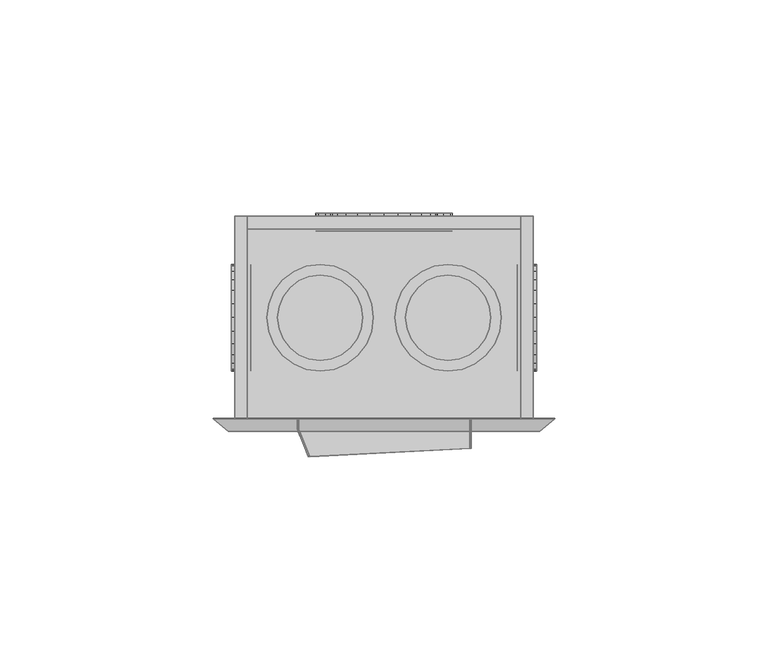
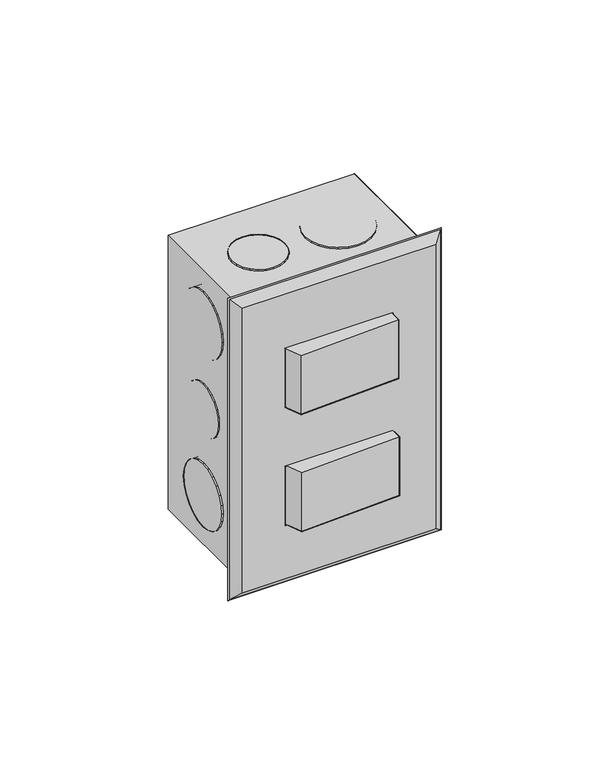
"""IFC4 building model written with IfcOpenShell, lengths in millimetres: proxy geometry,  210377 :  210377."""

from ifc_helpers import new_model, si_unit, origin, place, context, project, spatial, triangles, source, transform, mapped, element, save


def generic_models_202c9ed4(model_context):
    return source(origin(), model_context, "Body", "Tessellation", [
        triangles([(25255.7002808, 13148.2997681, 1254.3000378), (25252.7004639, 13148.2997681, 1148.7000154), (25255.7002808, 13148.2997681, 1145.6999805), (25252.7004639, 13148.2997681, 1251.2999302), (25185.6999023, 13148.2997681, 1254.3000378), (25188.6997192, 13148.2997681, 1251.2999302), (25185.6999023, 13148.2997681, 1145.6999805), (25188.6997192, 13148.2997681, 1148.7000154), (25252.7004639, 13195.8003571, 1251.2999302), (25252.7004639, 13195.8003571, 1148.7000154), (25185.6999023, 13195.8003571, 1254.3000378), (25185.6999023, 13195.8003571, 1145.6999805), (25188.6997192, 13195.8003571, 1251.2999302), (25255.7002808, 13195.8003571, 1145.6999805), (25188.6997192, 13195.8003571, 1148.7000154), (25255.7002808, 13195.8003571, 1254.3000378), (25252.7004639, 13192.8005402, 1251.2999302), (25188.6997192, 13192.8005402, 1148.7000154), (25252.7004639, 13192.8005402, 1148.7000154), (25188.6997192, 13192.8005402, 1251.2999302), (25228.6996033, 13196.5003143, 1186.0999855), (25234.5992432, 13196.5003143, 1191.9999887), (25231.9994019, 13196.5003143, 1188.6999722), (25224.8998352, 13196.5003143, 1184.5000105), (25236.1991455, 13196.5003143, 1195.8999687), (25220.7000916, 13196.5003143, 1183.9999683), (25236.699115, 13196.5003143, 1200.0000092), (25216.6003418, 13196.5003143, 1184.5000105), (25236.1991455, 13196.5003143, 1204.0999769), (25212.7005798, 13196.5003143, 1186.0999855), (25234.5992432, 13196.5003143, 1208.0000296), (25209.4007813, 13196.5003143, 1188.6999722), (25231.9994019, 13196.5003143, 1211.2999735), (25206.9009338, 13196.5003143, 1191.9999887), (25228.6996033, 13196.5003143, 1213.9000328), (25205.3010315, 13196.5003143, 1195.8999687), (25224.8998352, 13196.5003143, 1215.5000078), (25204.7010681, 13196.5003143, 1200.0000092), (25220.7000916, 13196.5003143, 1215.9999773), (25205.3010315, 13196.5003143, 1204.0999769), (25216.6003418, 13196.5003143, 1215.5000078), (25206.9009338, 13196.5003143, 1208.0000296), (25212.7005798, 13196.5003143, 1213.9000328), (25209.4007813, 13196.5003143, 1211.2999735), (25224.8998352, 13192.3005707, 1215.5000078), (25220.7000916, 13192.3005707, 1215.9999773), (25228.6996033, 13192.3005707, 1213.9000328), (25231.9994019, 13192.3005707, 1211.2999735), (25234.5992432, 13192.3005707, 1208.0000296), (25236.1991455, 13192.3005707, 1204.0999769), (25236.699115, 13192.3005707, 1200.0000092), (25236.1991455, 13192.3005707, 1195.8999687), (25234.5992432, 13192.3005707, 1191.9999887), (25231.9994019, 13192.3005707, 1188.6999722), (25228.6996033, 13192.3005707, 1186.0999855), (25224.8998352, 13192.3005707, 1184.5000105), (25220.7000916, 13192.3005707, 1183.9999683), (25216.6003418, 13192.3005707, 1184.5000105), (25212.7005798, 13192.3005707, 1186.0999855), (25209.4007813, 13192.3005707, 1188.6999722), (25206.9009338, 13192.3005707, 1191.9999887), (25205.3010315, 13192.3005707, 1195.8999687), (25204.7010681, 13192.3005707, 1200.0000092), (25205.3010315, 13192.3005707, 1204.0999769), (25206.9009338, 13192.3005707, 1208.0000296), (25209.4007813, 13192.3005707, 1211.2999735), (25212.7005798, 13192.3005707, 1213.9000328), (25216.6003418, 13192.3005707, 1215.5000078), (25231.5994263, 13192.3005707, 1227.8000565), (25226.999707, 13192.3005707, 1223.2000465), (25229.5995483, 13192.3005707, 1225.2000698), (25232.799353, 13192.3005707, 1230.8000187), (25223.9998901, 13192.3005707, 1221.8999805), (25233.1993286, 13192.3005707, 1233.9999687), (25220.7000916, 13192.3005707, 1221.500005), (25232.799353, 13192.3005707, 1237.2000641), (25217.5002869, 13192.3005707, 1221.8999805), (25231.5994263, 13192.3005707, 1240.3000202), (25214.50047, 13192.3005707, 1223.2000465), (25229.5995483, 13192.3005707, 1242.800013), (25211.9006287, 13192.3005707, 1225.2000698), (25209.9007507, 13192.3005707, 1227.8000565), (25226.999707, 13192.3005707, 1244.8000362), (25223.9998901, 13192.3005707, 1246.0999569), (25208.700824, 13192.3005707, 1230.8000187), (25220.7000916, 13192.3005707, 1246.4999325), (25208.2008545, 13192.3005707, 1233.9999687), (25217.5002869, 13192.3005707, 1246.0999569), (25208.700824, 13192.3005707, 1237.2000641), (25209.9007507, 13192.3005707, 1240.3000202), (25214.50047, 13192.3005707, 1244.8000362), (25211.9006287, 13192.3005707, 1242.800013), (25208.700824, 13196.5003143, 1230.8000187), (25209.9007507, 13196.5003143, 1227.8000565), (25211.9006287, 13196.5003143, 1225.2000698), (25214.50047, 13196.5003143, 1223.2000465), (25217.5002869, 13196.5003143, 1221.8999805), (25220.7000916, 13196.5003143, 1221.500005), (25223.9998901, 13196.5003143, 1221.8999805), (25226.999707, 13196.5003143, 1223.2000465), (25229.5995483, 13196.5003143, 1225.2000698), (25231.5994263, 13196.5003143, 1227.8000565), (25232.799353, 13196.5003143, 1230.8000187), (25233.1993286, 13196.5003143, 1233.9999687), (25232.799353, 13196.5003143, 1237.2000641), (25231.5994263, 13196.5003143, 1240.3000202), (25229.5995483, 13196.5003143, 1242.800013), (25226.999707, 13196.5003143, 1244.8000362), (25223.9998901, 13196.5003143, 1246.0999569), (25220.7000916, 13196.5003143, 1246.4999325), (25217.5002869, 13196.5003143, 1246.0999569), (25214.50047, 13196.5003143, 1244.8000362), (25211.9006287, 13196.5003143, 1242.800013), (25209.9007507, 13196.5003143, 1240.3000202), (25208.700824, 13196.5003143, 1237.2000641), (25208.2008545, 13196.5003143, 1233.9999687), (25226.999707, 13196.5003143, 1155.1999821), (25231.5994263, 13196.5003143, 1159.6999981), (25229.5995483, 13196.5003143, 1157.2000053), (25223.9998901, 13196.5003143, 1153.8999887), (25232.799353, 13196.5003143, 1162.8000269), (25220.7000916, 13196.5003143, 1153.5000132), (25233.1993286, 13196.5003143, 1165.9999769), (25217.5002869, 13196.5003143, 1153.8999887), (25232.799353, 13196.5003143, 1169.1999996), (25214.50047, 13196.5003143, 1155.1999821), (25231.5994263, 13196.5003143, 1172.2000345), (25211.9006287, 13196.5003143, 1157.2000053), (25229.5995483, 13196.5003143, 1174.8000212), (25209.9007507, 13196.5003143, 1159.6999981), (25226.999707, 13196.5003143, 1176.7999718), (25208.700824, 13196.5003143, 1162.8000269), (25223.9998901, 13196.5003143, 1178.0999651), (25220.7000916, 13196.5003143, 1178.5000134), (25208.2008545, 13196.5003143, 1165.9999769), (25208.700824, 13196.5003143, 1169.1999996), (25217.5002869, 13196.5003143, 1178.0999651), (25209.9007507, 13196.5003143, 1172.2000345), (25214.50047, 13196.5003143, 1176.7999718), (25211.9006287, 13196.5003143, 1174.8000212), (25223.9998901, 13192.3005707, 1178.0999651), (25220.7000916, 13192.3005707, 1178.5000134), (25226.999707, 13192.3005707, 1176.7999718), (25229.5995483, 13192.3005707, 1174.8000212), (25231.5994263, 13192.3005707, 1172.2000345), (25232.799353, 13192.3005707, 1169.1999996), (25233.1993286, 13192.3005707, 1165.9999769), (25232.799353, 13192.3005707, 1162.8000269), (25231.5994263, 13192.3005707, 1159.6999981), (25229.5995483, 13192.3005707, 1157.2000053), (25226.999707, 13192.3005707, 1155.1999821), (25223.9998901, 13192.3005707, 1153.8999887), (25220.7000916, 13192.3005707, 1153.5000132), (25217.5002869, 13192.3005707, 1153.8999887), (25214.50047, 13192.3005707, 1155.1999821), (25211.9006287, 13192.3005707, 1157.2000053), (25209.9007507, 13192.3005707, 1159.6999981), (25208.700824, 13192.3005707, 1162.8000269), (25208.2008545, 13192.3005707, 1165.9999769), (25208.700824, 13192.3005707, 1169.1999996), (25209.9007507, 13192.3005707, 1172.2000345), (25211.9006287, 13192.3005707, 1174.8000212), (25214.50047, 13192.3005707, 1176.7999718), (25217.5002869, 13192.3005707, 1178.0999651), (25256.5002319, 13180.700116, 1195.0000237), (25256.5002319, 13177.0003418, 1191.3000315), (25256.5002319, 13179.1002136, 1192.9000065), (25256.5002319, 13181.7000549, 1197.4000225), (25256.5002319, 13174.6004883, 1190.3000198), (25256.5002319, 13182.0000366, 1200.0000092), (25256.5002319, 13171.9994843, 1189.9999655), (25256.5002319, 13181.7000549, 1202.5999958), (25256.5002319, 13169.3996429, 1190.3000198), (25256.5002319, 13180.700116, 1204.9999947), (25256.5002319, 13166.9997894, 1191.3000315), (25256.5002319, 13179.1002136, 1207.1000118), (25256.5002319, 13164.8999176, 1192.9000065), (25256.5002319, 13177.0003418, 1208.6999868), (25256.5002319, 13163.3000153, 1195.0000237), (25256.5002319, 13174.6004883, 1209.6999985), (25256.5002319, 13162.3000763, 1197.4000225), (25256.5002319, 13162.0000946, 1200.0000092), (25256.5002319, 13171.9994843, 1209.9999802), (25256.5002319, 13169.3996429, 1209.6999985), (25256.5002319, 13162.3000763, 1202.5999958), (25256.5002319, 13166.9997894, 1208.6999868), (25256.5002319, 13163.3000153, 1204.9999947), (25256.5002319, 13164.8999176, 1207.1000118), (25251.9005127, 13174.6004883, 1209.6999985), (25251.9005127, 13171.9994843, 1209.9999802), (25251.9005127, 13169.3996429, 1209.6999985), (25251.9005127, 13166.9997894, 1208.6999868), (25251.9005127, 13164.8999176, 1207.1000118), (25251.9005127, 13163.3000153, 1204.9999947), (25251.9005127, 13162.3000763, 1202.5999958), (25251.9005127, 13162.0000946, 1200.0000092), (25251.9005127, 13162.3000763, 1197.4000225), (25251.9005127, 13163.3000153, 1195.0000237), (25251.9005127, 13164.8999176, 1192.9000065), (25251.9005127, 13166.9997894, 1191.3000315), (25251.9005127, 13169.3996429, 1190.3000198), (25251.9005127, 13171.9994843, 1189.9999655), (25251.9005127, 13174.6004883, 1190.3000198), (25251.9005127, 13177.0003418, 1191.3000315), (25251.9005127, 13179.1002136, 1192.9000065), (25251.9005127, 13180.700116, 1195.0000237), (25251.9005127, 13181.7000549, 1197.4000225), (25251.9005127, 13182.0000366, 1200.0000092), (25251.9005127, 13181.7000549, 1202.5999958), (25251.9005127, 13180.700116, 1204.9999947), (25251.9005127, 13179.1002136, 1207.1000118), (25251.9005127, 13177.0003418, 1208.6999868), (25251.9005127, 13178.3002625, 1223.2000465), (25251.9005127, 13182.7999878, 1227.8000565), (25251.9005127, 13180.8001099, 1225.2000698), (25251.9005127, 13175.2004517, 1221.8999805), (25251.9005127, 13184.0999084, 1230.8000187), (25251.9005127, 13184.499884, 1233.9999687), (25251.9005127, 13171.9994843, 1221.500005), (25251.9005127, 13168.7996796, 1221.8999805), (25251.9005127, 13184.0999084, 1237.2000641), (25251.9005127, 13182.7999878, 1240.3000202), (25251.9005127, 13165.7998627, 1223.2000465), (25251.9005127, 13163.2000214, 1225.2000698), (25251.9005127, 13180.8001099, 1242.800013), (25251.9005127, 13161.2001434, 1227.8000565), (25251.9005127, 13178.3002625, 1244.8000362), (25251.9005127, 13159.9002228, 1230.8000187), (25251.9005127, 13175.2004517, 1246.0999569), (25251.9005127, 13159.5002472, 1233.9999687), (25251.9005127, 13171.9994843, 1246.4999325), (25251.9005127, 13159.9002228, 1237.2000641), (25251.9005127, 13168.7996796, 1246.0999569), (25251.9005127, 13161.2001434, 1240.3000202), (25251.9005127, 13165.7998627, 1244.8000362), (25251.9005127, 13163.2000214, 1242.800013), (25256.5002319, 13171.9994843, 1221.500005), (25256.5002319, 13175.2004517, 1221.8999805), (25256.5002319, 13168.7996796, 1221.8999805), (25256.5002319, 13165.7998627, 1223.2000465), (25256.5002319, 13163.2000214, 1225.2000698), (25256.5002319, 13161.2001434, 1227.8000565), (25256.5002319, 13159.9002228, 1230.8000187), (25256.5002319, 13159.5002472, 1233.9999687), (25256.5002319, 13159.9002228, 1237.2000641), (25256.5002319, 13161.2001434, 1240.3000202), (25256.5002319, 13163.2000214, 1242.800013), (25256.5002319, 13165.7998627, 1244.8000362), (25256.5002319, 13168.7996796, 1246.0999569), (25256.5002319, 13171.9994843, 1246.4999325), (25256.5002319, 13175.2004517, 1246.0999569), (25256.5002319, 13178.3002625, 1244.8000362), (25256.5002319, 13180.8001099, 1242.800013), (25256.5002319, 13182.7999878, 1240.3000202), (25256.5002319, 13184.0999084, 1237.2000641), (25256.5002319, 13184.499884, 1233.9999687), (25256.5002319, 13184.0999084, 1230.8000187), (25256.5002319, 13182.7999878, 1227.8000565), (25256.5002319, 13180.8001099, 1225.2000698), (25256.5002319, 13178.3002625, 1223.2000465), (25256.5002319, 13182.7999878, 1159.6999981), (25256.5002319, 13178.3002625, 1155.1999821), (25256.5002319, 13180.8001099, 1157.2000053), (25256.5002319, 13184.0999084, 1162.8000269), (25256.5002319, 13175.2004517, 1153.8999887), (25256.5002319, 13184.499884, 1165.9999769), (25256.5002319, 13171.9994843, 1153.5000132), (25256.5002319, 13184.0999084, 1169.1999996), (25256.5002319, 13168.7996796, 1153.8999887), (25256.5002319, 13182.7999878, 1172.2000345), (25256.5002319, 13165.7998627, 1155.1999821), (25256.5002319, 13180.8001099, 1174.8000212), (25256.5002319, 13163.2000214, 1157.2000053), (25256.5002319, 13178.3002625, 1176.7999718), (25256.5002319, 13161.2001434, 1159.6999981), (25256.5002319, 13175.2004517, 1178.0999651), (25256.5002319, 13159.9002228, 1162.8000269), (25256.5002319, 13171.9994843, 1178.5000134), (25256.5002319, 13159.5002472, 1165.9999769), (25256.5002319, 13168.7996796, 1178.0999651), (25256.5002319, 13159.9002228, 1169.1999996), (25256.5002319, 13165.7998627, 1176.7999718), (25256.5002319, 13161.2001434, 1172.2000345), (25256.5002319, 13163.2000214, 1174.8000212), (25251.9005127, 13175.2004517, 1178.0999651), (25251.9005127, 13171.9994843, 1178.5000134), (25251.9005127, 13168.7996796, 1178.0999651), (25251.9005127, 13165.7998627, 1176.7999718), (25251.9005127, 13163.2000214, 1174.8000212), (25251.9005127, 13161.2001434, 1172.2000345), (25251.9005127, 13159.9002228, 1169.1999996), (25251.9005127, 13159.5002472, 1165.9999769), (25251.9005127, 13159.9002228, 1162.8000269), (25251.9005127, 13161.2001434, 1159.6999981), (25251.9005127, 13163.2000214, 1157.2000053), (25251.9005127, 13165.7998627, 1155.1999821), (25251.9005127, 13168.7996796, 1153.8999887), (25251.9005127, 13171.9994843, 1153.5000132), (25251.9005127, 13175.2004517, 1153.8999887), (25251.9005127, 13178.3002625, 1155.1999821), (25251.9005127, 13180.8001099, 1157.2000053), (25251.9005127, 13182.7999878, 1159.6999981), (25251.9005127, 13184.0999084, 1162.8000269), (25251.9005127, 13184.499884, 1165.9999769), (25251.9005127, 13184.0999084, 1169.1999996), (25251.9005127, 13182.7999878, 1172.2000345), (25251.9005127, 13180.8001099, 1174.8000212), (25251.9005127, 13178.3002625, 1176.7999718), (25184.8999512, 13177.0003418, 1191.3000315), (25184.8999512, 13180.700116, 1195.0000237), (25184.8999512, 13179.1002136, 1192.9000065), (25184.8999512, 13181.7000549, 1197.4000225), (25184.8999512, 13174.6004883, 1190.3000198), (25184.8999512, 13182.0000366, 1200.0000092), (25184.8999512, 13171.9994843, 1189.9999655), (25184.8999512, 13169.3996429, 1190.3000198), (25184.8999512, 13181.7000549, 1202.5999958), (25184.8999512, 13180.700116, 1204.9999947), (25184.8999512, 13166.9997894, 1191.3000315), (25184.8999512, 13179.1002136, 1207.1000118), (25184.8999512, 13164.8999176, 1192.9000065), (25184.8999512, 13163.3000153, 1195.0000237), (25184.8999512, 13177.0003418, 1208.6999868), (25184.8999512, 13162.3000763, 1197.4000225), (25184.8999512, 13174.6004883, 1209.6999985), (25184.8999512, 13162.0000946, 1200.0000092), (25184.8999512, 13171.9994843, 1209.9999802), (25184.8999512, 13162.3000763, 1202.5999958), (25184.8999512, 13169.3996429, 1209.6999985), (25184.8999512, 13166.9997894, 1208.6999868), (25184.8999512, 13163.3000153, 1204.9999947), (25184.8999512, 13164.8999176, 1207.1000118), (25189.4996704, 13174.6004883, 1190.3000198), (25189.4996704, 13177.0003418, 1191.3000315), (25189.4996704, 13171.9994843, 1189.9999655), (25189.4996704, 13169.3996429, 1190.3000198), (25189.4996704, 13166.9997894, 1191.3000315), (25189.4996704, 13164.8999176, 1192.9000065), (25189.4996704, 13163.3000153, 1195.0000237), (25189.4996704, 13162.3000763, 1197.4000225), (25189.4996704, 13162.0000946, 1200.0000092), (25189.4996704, 13162.3000763, 1202.5999958), (25189.4996704, 13163.3000153, 1204.9999947), (25189.4996704, 13164.8999176, 1207.1000118), (25189.4996704, 13166.9997894, 1208.6999868), (25189.4996704, 13169.3996429, 1209.6999985), (25189.4996704, 13171.9994843, 1209.9999802), (25189.4996704, 13174.6004883, 1209.6999985), (25189.4996704, 13177.0003418, 1208.6999868), (25189.4996704, 13179.1002136, 1207.1000118), (25189.4996704, 13180.700116, 1204.9999947), (25189.4996704, 13181.7000549, 1202.5999958), (25189.4996704, 13182.0000366, 1200.0000092), (25189.4996704, 13181.7000549, 1197.4000225), (25189.4996704, 13180.700116, 1195.0000237), (25189.4996704, 13179.1002136, 1192.9000065), (25189.4996704, 13182.7999878, 1159.6999981), (25189.4996704, 13178.3002625, 1155.1999821), (25189.4996704, 13180.8001099, 1157.2000053), (25189.4996704, 13184.0999084, 1162.8000269), (25189.4996704, 13175.2004517, 1153.8999887), (25189.4996704, 13184.499884, 1165.9999769), (25189.4996704, 13171.9994843, 1153.5000132), (25189.4996704, 13184.0999084, 1169.1999996), (25189.4996704, 13168.7996796, 1153.8999887), (25189.4996704, 13182.7999878, 1172.2000345), (25189.4996704, 13165.7998627, 1155.1999821), (25189.4996704, 13180.8001099, 1174.8000212), (25189.4996704, 13163.2000214, 1157.2000053), (25189.4996704, 13178.3002625, 1176.7999718), (25189.4996704, 13161.2001434, 1159.6999981), (25189.4996704, 13175.2004517, 1178.0999651), (25189.4996704, 13159.9002228, 1162.8000269), (25189.4996704, 13171.9994843, 1178.5000134), (25189.4996704, 13159.5002472, 1165.9999769), (25189.4996704, 13168.7996796, 1178.0999651), (25189.4996704, 13159.9002228, 1169.1999996), (25189.4996704, 13165.7998627, 1176.7999718), (25189.4996704, 13161.2001434, 1172.2000345), (25189.4996704, 13163.2000214, 1174.8000212), (25184.8999512, 13175.2004517, 1178.0999651), (25184.8999512, 13171.9994843, 1178.5000134), (25184.8999512, 13168.7996796, 1178.0999651), (25184.8999512, 13165.7998627, 1176.7999718), (25184.8999512, 13163.2000214, 1174.8000212), (25184.8999512, 13161.2001434, 1172.2000345), (25184.8999512, 13159.9002228, 1169.1999996), (25184.8999512, 13159.5002472, 1165.9999769), (25184.8999512, 13159.9002228, 1162.8000269), (25184.8999512, 13161.2001434, 1159.6999981), (25184.8999512, 13163.2000214, 1157.2000053), (25184.8999512, 13165.7998627, 1155.1999821), (25184.8999512, 13168.7996796, 1153.8999887), (25184.8999512, 13171.9994843, 1153.5000132), (25184.8999512, 13175.2004517, 1153.8999887), (25184.8999512, 13178.3002625, 1155.1999821), (25184.8999512, 13180.8001099, 1157.2000053), (25184.8999512, 13182.7999878, 1159.6999981), (25184.8999512, 13184.0999084, 1162.8000269), (25184.8999512, 13184.499884, 1165.9999769), (25184.8999512, 13184.0999084, 1169.1999996), (25184.8999512, 13182.7999878, 1172.2000345), (25184.8999512, 13180.8001099, 1174.8000212), (25184.8999512, 13178.3002625, 1176.7999718), (25184.8999512, 13178.3002625, 1223.2000465), (25184.8999512, 13182.7999878, 1227.8000565), (25184.8999512, 13180.8001099, 1225.2000698), (25184.8999512, 13175.2004517, 1221.8999805), (25184.8999512, 13184.0999084, 1230.8000187), (25184.8999512, 13184.499884, 1233.9999687), (25184.8999512, 13171.9994843, 1221.500005), (25184.8999512, 13168.7996796, 1221.8999805), (25184.8999512, 13184.0999084, 1237.2000641), (25184.8999512, 13182.7999878, 1240.3000202), (25184.8999512, 13165.7998627, 1223.2000465), (25184.8999512, 13163.2000214, 1225.2000698), (25184.8999512, 13180.8001099, 1242.800013), (25184.8999512, 13161.2001434, 1227.8000565), (25184.8999512, 13178.3002625, 1244.8000362), (25184.8999512, 13159.9002228, 1230.8000187), (25184.8999512, 13175.2004517, 1246.0999569), (25184.8999512, 13159.5002472, 1233.9999687), (25184.8999512, 13171.9994843, 1246.4999325), (25184.8999512, 13159.9002228, 1237.2000641), (25184.8999512, 13168.7996796, 1246.0999569), (25184.8999512, 13161.2001434, 1240.3000202), (25184.8999512, 13165.7998627, 1244.8000362), (25184.8999512, 13163.2000214, 1242.800013), (25189.4996704, 13171.9994843, 1221.500005), (25189.4996704, 13175.2004517, 1221.8999805), (25189.4996704, 13168.7996796, 1221.8999805), (25189.4996704, 13165.7998627, 1223.2000465), (25189.4996704, 13163.2000214, 1225.2000698), (25189.4996704, 13161.2001434, 1227.8000565), (25189.4996704, 13159.9002228, 1230.8000187), (25189.4996704, 13159.5002472, 1233.9999687), (25189.4996704, 13159.9002228, 1237.2000641), (25189.4996704, 13161.2001434, 1240.3000202), (25189.4996704, 13163.2000214, 1242.800013), (25189.4996704, 13165.7998627, 1244.8000362), (25189.4996704, 13168.7996796, 1246.0999569), (25189.4996704, 13171.9994843, 1246.4999325), (25189.4996704, 13175.2004517, 1246.0999569), (25189.4996704, 13178.3002625, 1244.8000362), (25189.4996704, 13180.8001099, 1242.800013), (25189.4996704, 13182.7999878, 1240.3000202), (25189.4996704, 13184.0999084, 1237.2000641), (25189.4996704, 13184.499884, 1233.9999687), (25189.4996704, 13184.0999084, 1230.8000187), (25189.4996704, 13182.7999878, 1227.8000565), (25189.4996704, 13180.8001099, 1225.2000698), (25189.4996704, 13178.3002625, 1223.2000465), (25242.0011169, 13182.7999878, 1255.1999828), (25246.6008362, 13178.3002625, 1255.1999828), (25244.6009583, 13180.8001099, 1255.1999828), (25247.8007629, 13175.2004517, 1255.1999828), (25238.9989746, 13184.0999084, 1255.1999828), (25235.699176, 13184.499884, 1255.1999828), (25248.2007385, 13171.9994843, 1255.1999828), (25247.8007629, 13168.7996796, 1255.1999828), (25232.4993713, 13184.0999084, 1255.1999828), (25229.4995544, 13182.7999878, 1255.1999828), (25246.6008362, 13165.7998627, 1255.1999828), (25244.6009583, 13163.2000214, 1255.1999828), (25226.8997131, 13180.8001099, 1255.1999828), (25224.8998352, 13178.3002625, 1255.1999828), (25242.0011169, 13161.2001434, 1255.1999828), (25238.9989746, 13159.9002228, 1255.1999828), (25223.6999084, 13175.2004517, 1255.1999828), (25235.699176, 13159.5002472, 1255.1999828), (25223.199939, 13171.9994843, 1255.1999828), (25232.4993713, 13159.9002228, 1255.1999828), (25223.6999084, 13168.7996796, 1255.1999828), (25224.8998352, 13165.7998627, 1255.1999828), (25229.4995544, 13161.2001434, 1255.1999828), (25226.8997131, 13163.2000214, 1255.1999828), (25235.699176, 13159.5002472, 1250.9999485), (25238.9989746, 13159.9002228, 1250.9999485), (25242.0011169, 13161.2001434, 1250.9999485), (25244.6009583, 13163.2000214, 1250.9999485), (25246.6008362, 13165.7998627, 1250.9999485), (25247.8007629, 13168.7996796, 1250.9999485), (25248.2007385, 13171.9994843, 1250.9999485), (25247.8007629, 13175.2004517, 1250.9999485), (25246.6008362, 13178.3002625, 1250.9999485), (25244.6009583, 13180.8001099, 1250.9999485), (25242.0011169, 13182.7999878, 1250.9999485), (25238.9989746, 13184.0999084, 1250.9999485), (25235.699176, 13184.499884, 1250.9999485), (25232.4993713, 13184.0999084, 1250.9999485), (25229.4995544, 13182.7999878, 1250.9999485), (25226.8997131, 13180.8001099, 1250.9999485), (25224.8998352, 13178.3002625, 1250.9999485), (25223.6999084, 13175.2004517, 1250.9999485), (25223.199939, 13171.9994843, 1250.9999485), (25223.6999084, 13168.7996796, 1250.9999485), (25224.8998352, 13165.7998627, 1250.9999485), (25226.8997131, 13163.2000214, 1250.9999485), (25229.4995544, 13161.2001434, 1250.9999485), (25232.4993713, 13159.9002228, 1250.9999485), (25214.4004761, 13177.0003418, 1250.9999485), (25210.7007019, 13180.700116, 1250.9999485), (25212.8005737, 13179.1002136, 1250.9999485), (25208.3008484, 13181.7000549, 1250.9999485), (25215.400415, 13174.6004883, 1250.9999485), (25205.7010071, 13182.0000366, 1250.9999485), (25215.7003967, 13171.9994843, 1250.9999485), (25215.400415, 13169.3996429, 1250.9999485), (25203.0988403, 13181.7000549, 1250.9999485), (25200.6989868, 13180.700116, 1250.9999485), (25214.4004761, 13166.9997894, 1250.9999485), (25198.6991089, 13179.1002136, 1250.9999485), (25212.8005737, 13164.8999176, 1250.9999485), (25210.7007019, 13163.3000153, 1250.9999485), (25197.0992065, 13177.0003418, 1250.9999485), (25196.0992676, 13174.6004883, 1250.9999485), (25208.3008484, 13162.3000763, 1250.9999485), (25205.7010071, 13162.0000946, 1250.9999485), (25195.699292, 13171.9994843, 1250.9999485), (25203.0988403, 13162.3000763, 1250.9999485), (25196.0992676, 13169.3996429, 1250.9999485), (25200.6989868, 13163.3000153, 1250.9999485), (25197.0992065, 13166.9997894, 1250.9999485), (25198.6991089, 13164.8999176, 1250.9999485), (25203.0988403, 13181.7000549, 1255.1999828), (25200.6989868, 13180.700116, 1255.1999828), (25205.7010071, 13182.0000366, 1255.1999828), (25208.3008484, 13181.7000549, 1255.1999828), (25210.7007019, 13180.700116, 1255.1999828), (25212.8005737, 13179.1002136, 1255.1999828), (25214.4004761, 13177.0003418, 1255.1999828), (25215.400415, 13174.6004883, 1255.1999828), (25215.7003967, 13171.9994843, 1255.1999828), (25215.400415, 13169.3996429, 1255.1999828), (25214.4004761, 13166.9997894, 1255.1999828), (25212.8005737, 13164.8999176, 1255.1999828), (25210.7007019, 13163.3000153, 1255.1999828), (25208.3008484, 13162.3000763, 1255.1999828), (25205.7010071, 13162.0000946, 1255.1999828), (25203.0988403, 13162.3000763, 1255.1999828), (25200.6989868, 13163.3000153, 1255.1999828), (25198.6991089, 13164.8999176, 1255.1999828), (25197.0992065, 13166.9997894, 1255.1999828), (25196.0992676, 13169.3996429, 1255.1999828), (25195.699292, 13171.9994843, 1255.1999828), (25196.0992676, 13174.6004883, 1255.1999828), (25197.0992065, 13177.0003418, 1255.1999828), (25198.6991089, 13179.1002136, 1255.1999828), (25244.4009705, 13177.0003418, 1144.8000355), (25240.6988708, 13180.700116, 1144.8000355), (25242.8010681, 13179.1002136, 1144.8000355), (25238.2990173, 13181.7000549, 1144.8000355), (25245.4009094, 13174.6004883, 1144.8000355), (25235.699176, 13182.0000366, 1144.8000355), (25245.7008911, 13171.9994843, 1144.8000355), (25245.4009094, 13169.3996429, 1144.8000355), (25233.0993347, 13181.7000549, 1144.8000355), (25230.6994812, 13180.700116, 1144.8000355), (25244.4009705, 13166.9997894, 1144.8000355), (25228.6996033, 13179.1002136, 1144.8000355), (25242.8010681, 13164.8999176, 1144.8000355), (25240.6988708, 13163.3000153, 1144.8000355), (25227.0997009, 13177.0003418, 1144.8000355), (25226.099762, 13174.6004883, 1144.8000355), (25238.2990173, 13162.3000763, 1144.8000355), (25235.699176, 13162.0000946, 1144.8000355), (25225.6997864, 13171.9994843, 1144.8000355), (25233.0993347, 13162.3000763, 1144.8000355), (25226.099762, 13169.3996429, 1144.8000355), (25230.6994812, 13163.3000153, 1144.8000355), (25227.0997009, 13166.9997894, 1144.8000355), (25228.6996033, 13164.8999176, 1144.8000355), (25238.2990173, 13181.7000549, 1149.099991), (25235.699176, 13182.0000366, 1149.099991), (25240.6988708, 13180.700116, 1149.099991), (25242.8010681, 13179.1002136, 1149.099991), (25244.4009705, 13177.0003418, 1149.099991), (25245.4009094, 13174.6004883, 1149.099991), (25245.7008911, 13171.9994843, 1149.099991), (25245.4009094, 13169.3996429, 1149.099991), (25244.4009705, 13166.9997894, 1149.099991), (25242.8010681, 13164.8999176, 1149.099991), (25240.6988708, 13163.3000153, 1149.099991), (25238.2990173, 13162.3000763, 1149.099991), (25235.699176, 13162.0000946, 1149.099991), (25233.0993347, 13162.3000763, 1149.099991), (25230.6994812, 13163.3000153, 1149.099991), (25228.6996033, 13164.8999176, 1149.099991), (25227.0997009, 13166.9997894, 1149.099991), (25226.099762, 13169.3996429, 1149.099991), (25225.6997864, 13171.9994843, 1149.099991), (25226.099762, 13174.6004883, 1149.099991), (25227.0997009, 13177.0003418, 1149.099991), (25228.6996033, 13179.1002136, 1149.099991), (25230.6994812, 13180.700116, 1149.099991), (25233.0993347, 13181.7000549, 1149.099991), (25216.6003418, 13178.3002625, 1144.8000355), (25212.0006226, 13182.7999878, 1144.8000355), (25214.6004639, 13180.8001099, 1144.8000355), (25217.8002686, 13175.2004517, 1144.8000355), (25209.0008057, 13184.0999084, 1144.8000355), (25205.7010071, 13184.499884, 1144.8000355), (25218.2002441, 13171.9994843, 1144.8000355), (25217.8002686, 13168.7996796, 1144.8000355), (25202.498877, 13184.0999084, 1144.8000355), (25199.4990601, 13182.7999878, 1144.8000355), (25216.6003418, 13165.7998627, 1144.8000355), (25214.6004639, 13163.2000214, 1144.8000355), (25196.8992188, 13180.8001099, 1144.8000355), (25194.8993408, 13178.3002625, 1144.8000355), (25212.0006226, 13161.2001434, 1144.8000355), (25209.0008057, 13159.9002228, 1144.8000355), (25193.6994141, 13175.2004517, 1144.8000355), (25205.7010071, 13159.5002472, 1144.8000355), (25193.1994446, 13171.9994843, 1144.8000355), (25202.498877, 13159.9002228, 1144.8000355), (25193.6994141, 13168.7996796, 1144.8000355), (25194.8993408, 13165.7998627, 1144.8000355), (25199.4990601, 13161.2001434, 1144.8000355), (25196.8992188, 13163.2000214, 1144.8000355), (25202.498877, 13184.0999084, 1149.099991), (25199.4990601, 13182.7999878, 1149.099991), (25205.7010071, 13184.499884, 1149.099991), (25209.0008057, 13184.0999084, 1149.099991), (25212.0006226, 13182.7999878, 1149.099991), (25214.6004639, 13180.8001099, 1149.099991), (25216.6003418, 13178.3002625, 1149.099991), (25217.8002686, 13175.2004517, 1149.099991), (25218.2002441, 13171.9994843, 1149.099991), (25217.8002686, 13168.7996796, 1149.099991), (25216.6003418, 13165.7998627, 1149.099991), (25214.6004639, 13163.2000214, 1149.099991), (25212.0006226, 13161.2001434, 1149.099991), (25209.0008057, 13159.9002228, 1149.099991), (25205.7010071, 13159.5002472, 1149.099991), (25202.498877, 13159.9002228, 1149.099991), (25199.4990601, 13161.2001434, 1149.099991), (25196.8992188, 13163.2000214, 1149.099991), (25194.8993408, 13165.7998627, 1149.099991), (25193.6994141, 13168.7996796, 1149.099991), (25193.1994446, 13171.9994843, 1149.099991), (25193.6994141, 13175.2004517, 1149.099991), (25194.8993408, 13178.3002625, 1149.099991), (25196.8992188, 13180.8001099, 1149.099991), (25180.7002075, 13148.2997681, 1139.9999651), (25240.8988586, 13148.2997681, 1164.5999897), (25260.6999756, 13148.2997681, 1139.9999651), (25200.498999, 13148.2997681, 1164.5999897), (25180.7002075, 13148.2997681, 1259.9999805), (25200.498999, 13148.2997681, 1188.0000149), (25200.498999, 13148.2997681, 1211.3999674), (25200.498999, 13148.2997681, 1234.8000652), (25260.6999756, 13148.2997681, 1259.9999805), (25240.8988586, 13148.2997681, 1188.0000149), (25240.8988586, 13148.2997681, 1211.3999674), (25240.8988586, 13148.2997681, 1234.8000652), (25240.8988586, 13145.2999512, 1188.0000149), (25200.498999, 13145.2999512, 1188.0000149), (25240.8988586, 13145.2999512, 1234.8000652), (25200.498999, 13145.2999512, 1234.8000652), (25200.498999, 13145.2999512, 1164.5999897), (25200.498999, 13145.2999512, 1211.3999674), (25240.8988586, 13145.2999512, 1164.5999897), (25240.8988586, 13145.2999512, 1211.3999674), (25257.2001892, 13145.2999512, 1143.4999695), (25257.2001892, 13145.2999512, 1256.5000488), (25184.1999939, 13145.2999512, 1143.4999695), (25184.1999939, 13145.2999512, 1256.5000488), (25240.7988647, 13141.3001953, 1211.2999735), (25200.3990051, 13148.2997681, 1211.2999735), (25240.7988647, 13148.2997681, 1211.2999735), (25202.9988464, 13139.4003113, 1211.2999735), (25200.3990051, 13145.7999207, 1211.2999735), (25240.7988647, 13148.2997681, 1234.7000713), (25200.3990051, 13148.2997681, 1234.7000713), (25240.7988647, 13141.3001953, 1234.7000713), (25202.9988464, 13139.4003113, 1234.7000713), (25200.3990051, 13145.7999207, 1234.7000713), (25241.0988464, 13141.3001953, 1164.6999836), (25200.6989868, 13148.2997681, 1164.6999836), (25241.0988464, 13148.2997681, 1164.6999836), (25203.3011536, 13139.4003113, 1164.6999836), (25200.6989868, 13145.7999207, 1164.6999836), (25241.0988464, 13148.2997681, 1188.1000088), (25200.6989868, 13148.2997681, 1188.1000088), (25241.0988464, 13141.3001953, 1188.1000088), (25203.3011536, 13139.4003113, 1188.1000088), (25200.6989868, 13145.7999207, 1188.1000088)], [[1, 2, 3], [2, 1, 4], [5, 4, 1], [4, 5, 6], [3, 2, 7], [7, 2, 8], [7, 8, 6], [7, 6, 5], [2, 9, 10], [9, 2, 4], [7, 11, 12], [11, 7, 5], [4, 13, 9], [13, 4, 6], [3, 12, 14], [12, 3, 7], [13, 8, 15], [8, 13, 6], [16, 3, 14], [3, 16, 1], [15, 2, 10], [2, 15, 8], [11, 1, 16], [1, 11, 5], [12, 10, 14], [10, 12, 15], [11, 15, 12], [15, 11, 13], [14, 10, 16], [16, 10, 9], [16, 9, 13], [16, 13, 11], [17, 18, 19], [18, 17, 20], [18, 13, 15], [13, 18, 20], [19, 15, 10], [15, 19, 18], [9, 19, 10], [19, 9, 17], [13, 17, 9], [17, 13, 20], [15, 9, 10], [9, 15, 13], [21, 22, 23], [22, 21, 24], [25, 22, 24], [25, 24, 26], [27, 25, 26], [27, 26, 28], [29, 27, 28], [29, 28, 30], [31, 29, 30], [31, 30, 32], [31, 32, 33], [33, 32, 34], [33, 34, 35], [35, 34, 36], [35, 36, 37], [37, 36, 38], [37, 38, 39], [39, 38, 40], [39, 40, 41], [41, 40, 42], [41, 42, 43], [43, 42, 44], [39, 45, 37], [45, 39, 46], [37, 47, 35], [47, 37, 45], [35, 48, 33], [48, 35, 47], [33, 49, 31], [49, 33, 48], [31, 50, 29], [50, 31, 49], [29, 51, 27], [51, 29, 50], [27, 52, 25], [52, 27, 51], [25, 53, 22], [53, 25, 52], [22, 54, 23], [54, 22, 53], [54, 21, 23], [21, 54, 55], [55, 24, 21], [24, 55, 56], [56, 26, 24], [26, 56, 57], [57, 28, 26], [28, 57, 58], [58, 30, 28], [30, 58, 59], [59, 32, 30], [32, 59, 60], [60, 34, 32], [34, 60, 61], [61, 36, 34], [36, 61, 62], [62, 38, 36], [38, 62, 63], [63, 40, 38], [40, 63, 64], [64, 42, 40], [42, 64, 65], [65, 44, 42], [44, 65, 66], [44, 67, 43], [67, 44, 66], [43, 68, 41], [68, 43, 67], [41, 46, 39], [46, 41, 68], [53, 55, 54], [55, 53, 52], [56, 55, 52], [56, 52, 51], [57, 56, 51], [57, 51, 50], [58, 57, 50], [58, 50, 49], [59, 58, 49], [59, 49, 48], [59, 48, 60], [60, 48, 47], [60, 47, 61], [61, 47, 45], [61, 45, 62], [62, 45, 46], [62, 46, 63], [63, 46, 68], [63, 68, 64], [64, 68, 67], [64, 67, 65], [65, 67, 66], [69, 70, 71], [70, 69, 72], [73, 70, 72], [73, 72, 74], [75, 73, 74], [75, 74, 76], [77, 75, 76], [77, 76, 78], [79, 77, 78], [79, 78, 80], [81, 79, 80], [81, 80, 82], [82, 80, 83], [82, 83, 84], [82, 84, 85], [85, 84, 86], [85, 86, 87], [87, 86, 88], [87, 88, 89], [89, 88, 90], [90, 88, 91], [90, 91, 92], [82, 93, 94], [93, 82, 85], [81, 94, 95], [94, 81, 82], [79, 95, 96], [95, 79, 81], [77, 96, 97], [96, 77, 79], [75, 97, 98], [97, 75, 77], [73, 98, 99], [98, 73, 75], [70, 99, 100], [99, 70, 73], [71, 100, 101], [100, 71, 70], [102, 71, 101], [71, 102, 69], [103, 69, 102], [69, 103, 72], [104, 72, 103], [72, 104, 74], [105, 74, 104], [74, 105, 76], [106, 76, 105], [76, 106, 78], [107, 78, 106], [78, 107, 80], [108, 80, 107], [80, 108, 83], [109, 83, 108], [83, 109, 84], [110, 84, 109], [84, 110, 86], [111, 86, 110], [86, 111, 88], [112, 88, 111], [88, 112, 91], [113, 91, 112], [91, 113, 92], [90, 113, 114], [113, 90, 92], [89, 114, 115], [114, 89, 90], [87, 115, 116], [115, 87, 89], [85, 116, 93], [116, 85, 87], [100, 102, 101], [102, 100, 99], [103, 102, 99], [103, 99, 98], [104, 103, 98], [104, 98, 97], [105, 104, 97], [106, 105, 97], [106, 97, 96], [106, 96, 95], [106, 95, 107], [107, 95, 94], [107, 94, 108], [108, 94, 93], [108, 93, 109], [109, 93, 116], [109, 116, 110], [110, 116, 115], [110, 115, 111], [111, 115, 114], [111, 114, 112], [112, 114, 113], [117, 118, 119], [118, 117, 120], [121, 118, 120], [121, 120, 122], [123, 121, 122], [123, 122, 124], [125, 123, 124], [125, 124, 126], [127, 125, 126], [127, 126, 128], [127, 128, 129], [129, 128, 130], [129, 130, 131], [131, 130, 132], [131, 132, 133], [133, 132, 134], [134, 132, 135], [134, 135, 136], [134, 136, 137], [137, 136, 138], [137, 138, 139], [139, 138, 140], [134, 141, 133], [141, 134, 142], [133, 143, 131], [143, 133, 141], [131, 144, 129], [144, 131, 143], [129, 145, 127], [145, 129, 144], [127, 146, 125], [146, 127, 145], [125, 147, 123], [147, 125, 146], [123, 148, 121], [148, 123, 147], [121, 149, 118], [149, 121, 148], [118, 150, 119], [150, 118, 149], [150, 117, 119], [117, 150, 151], [151, 120, 117], [120, 151, 152], [152, 122, 120], [122, 152, 153], [153, 124, 122], [124, 153, 154], [154, 126, 124], [126, 154, 155], [155, 128, 126], [128, 155, 156], [156, 130, 128], [130, 156, 157], [157, 132, 130], [132, 157, 158], [158, 135, 132], [135, 158, 159], [159, 136, 135], [136, 159, 160], [160, 138, 136], [138, 160, 161], [161, 140, 138], [140, 161, 162], [140, 163, 139], [163, 140, 162], [139, 164, 137], [164, 139, 163], [137, 142, 134], [142, 137, 164], [149, 151, 150], [151, 149, 148], [152, 151, 148], [153, 152, 148], [153, 148, 147], [153, 147, 146], [154, 153, 146], [154, 146, 145], [155, 154, 145], [155, 145, 144], [156, 155, 144], [156, 144, 157], [157, 144, 143], [157, 143, 141], [157, 141, 158], [158, 141, 142], [158, 142, 159], [159, 142, 164], [159, 164, 160], [160, 164, 163], [160, 163, 161], [161, 163, 162], [165, 166, 167], [166, 165, 168], [169, 166, 168], [169, 168, 170], [171, 169, 170], [171, 170, 172], [173, 171, 172], [173, 172, 174], [175, 173, 174], [175, 174, 176], [177, 175, 176], [177, 176, 178], [177, 178, 179], [179, 178, 180], [179, 180, 181], [181, 180, 182], [182, 180, 183], [182, 183, 184], [182, 184, 185], [185, 184, 186], [185, 186, 187], [187, 186, 188], [189, 183, 180], [183, 189, 190], [190, 184, 183], [184, 190, 191], [191, 186, 184], [186, 191, 192], [192, 188, 186], [188, 192, 193], [188, 194, 187], [194, 188, 193], [187, 195, 185], [195, 187, 194], [185, 196, 182], [196, 185, 195], [182, 197, 181], [197, 182, 196], [181, 198, 179], [198, 181, 197], [179, 199, 177], [199, 179, 198], [177, 200, 175], [200, 177, 199], [175, 201, 173], [201, 175, 200], [173, 202, 171], [202, 173, 201], [171, 203, 169], [203, 171, 202], [169, 204, 166], [204, 169, 203], [166, 205, 167], [205, 166, 204], [205, 165, 167], [165, 205, 206], [206, 168, 165], [168, 206, 207], [207, 170, 168], [170, 207, 208], [208, 172, 170], [172, 208, 209], [209, 174, 172], [174, 209, 210], [210, 176, 174], [176, 210, 211], [211, 178, 176], [178, 211, 212], [212, 180, 178], [180, 212, 189], [204, 206, 205], [207, 206, 204], [207, 204, 203], [208, 207, 203], [208, 203, 202], [208, 202, 201], [209, 208, 201], [210, 209, 201], [210, 201, 200], [211, 210, 200], [211, 200, 199], [211, 199, 198], [211, 198, 212], [212, 198, 197], [212, 197, 189], [189, 197, 196], [189, 196, 190], [190, 196, 195], [190, 195, 191], [191, 195, 192], [192, 195, 194], [192, 194, 193], [213, 214, 215], [214, 213, 216], [217, 214, 216], [218, 217, 216], [218, 216, 219], [218, 219, 220], [221, 218, 220], [222, 221, 220], [222, 220, 223], [222, 223, 224], [222, 224, 225], [225, 224, 226], [225, 226, 227], [227, 226, 228], [227, 228, 229], [229, 228, 230], [229, 230, 231], [231, 230, 232], [231, 232, 233], [233, 232, 234], [233, 234, 235], [235, 234, 236], [237, 216, 238], [216, 237, 219], [239, 219, 237], [219, 239, 220], [240, 220, 239], [220, 240, 223], [241, 223, 240], [223, 241, 224], [242, 224, 241], [224, 242, 226], [243, 226, 242], [226, 243, 228], [244, 228, 243], [228, 244, 230], [245, 230, 244], [230, 245, 232], [246, 232, 245], [232, 246, 234], [247, 234, 246], [234, 247, 236], [235, 247, 248], [247, 235, 236], [233, 248, 249], [248, 233, 235], [231, 249, 250], [249, 231, 233], [229, 250, 251], [250, 229, 231], [227, 251, 252], [251, 227, 229], [225, 252, 253], [252, 225, 227], [222, 253, 254], [253, 222, 225], [221, 254, 255], [254, 221, 222], [218, 255, 256], [255, 218, 221], [217, 256, 257], [256, 217, 218], [214, 257, 258], [257, 214, 217], [215, 258, 259], [258, 215, 214], [260, 215, 259], [215, 260, 213], [238, 213, 260], [213, 238, 216], [258, 260, 259], [260, 258, 257], [238, 260, 257], [238, 257, 256], [237, 238, 256], [237, 256, 255], [239, 237, 255], [239, 255, 254], [240, 239, 254], [240, 254, 253], [240, 253, 241], [241, 253, 252], [241, 252, 242], [242, 252, 251], [242, 251, 243], [243, 251, 244], [244, 251, 250], [244, 250, 249], [244, 249, 245], [245, 249, 246], [246, 249, 248], [246, 248, 247], [261, 262, 263], [262, 261, 264], [265, 262, 264], [265, 264, 266], [267, 265, 266], [267, 266, 268], [269, 267, 268], [269, 268, 270], [271, 269, 270], [271, 270, 272], [271, 272, 273], [273, 272, 274], [273, 274, 275], [275, 274, 276], [275, 276, 277], [277, 276, 278], [277, 278, 279], [279, 278, 280], [279, 280, 281], [281, 280, 282], [281, 282, 283], [283, 282, 284], [285, 278, 276], [278, 285, 286], [286, 280, 278], [280, 286, 287], [287, 282, 280], [282, 287, 288], [288, 284, 282], [284, 288, 289], [284, 290, 283], [290, 284, 289], [283, 291, 281], [291, 283, 290], [281, 292, 279], [292, 281, 291], [279, 293, 277], [293, 279, 292], [277, 294, 275], [294, 277, 293], [275, 295, 273], [295, 275, 294], [273, 296, 271], [296, 273, 295], [271, 297, 269], [297, 271, 296], [269, 298, 267], [298, 269, 297], [267, 299, 265], [299, 267, 298], [265, 300, 262], [300, 265, 299], [262, 301, 263], [301, 262, 300], [301, 261, 263], [261, 301, 302], [302, 264, 261], [264, 302, 303], [303, 266, 264], [266, 303, 304], [304, 268, 266], [268, 304, 305], [305, 270, 268], [270, 305, 306], [306, 272, 270], [272, 306, 307], [307, 274, 272], [274, 307, 308], [308, 276, 274], [276, 308, 285], [300, 302, 301], [302, 300, 299], [303, 302, 299], [303, 299, 298], [304, 303, 298], [304, 298, 297], [305, 304, 297], [305, 297, 296], [306, 305, 296], [306, 296, 295], [306, 295, 307], [307, 295, 294], [307, 294, 308], [308, 294, 293], [308, 293, 285], [285, 293, 286], [286, 293, 292], [286, 292, 291], [286, 291, 287], [287, 291, 288], [288, 291, 290], [288, 290, 289], [309, 310, 311], [312, 310, 309], [312, 309, 313], [314, 312, 313], [314, 313, 315], [314, 315, 316], [317, 314, 316], [318, 317, 316], [318, 316, 319], [320, 318, 319], [320, 319, 321], [320, 321, 322], [320, 322, 323], [323, 322, 324], [323, 324, 325], [325, 324, 326], [325, 326, 327], [327, 326, 328], [327, 328, 329], [329, 328, 330], [330, 328, 331], [330, 331, 332], [333, 309, 334], [309, 333, 313], [335, 313, 333], [313, 335, 315], [336, 315, 335], [315, 336, 316], [337, 316, 336], [316, 337, 319], [338, 319, 337], [319, 338, 321], [339, 321, 338], [321, 339, 322], [340, 322, 339], [322, 340, 324], [341, 324, 340], [324, 341, 326], [342, 326, 341], [326, 342, 328], [343, 328, 342], [328, 343, 331], [344, 331, 343], [331, 344, 332], [330, 344, 345], [344, 330, 332], [329, 345, 346], [345, 329, 330], [327, 346, 347], [346, 327, 329], [325, 347, 348], [347, 325, 327], [323, 348, 349], [348, 323, 325], [320, 349, 350], [349, 320, 323], [318, 350, 351], [350, 318, 320], [317, 351, 352], [351, 317, 318], [314, 352, 353], [352, 314, 317], [312, 353, 354], [353, 312, 314], [310, 354, 355], [354, 310, 312], [311, 355, 356], [355, 311, 310], [334, 311, 356], [311, 334, 309], [355, 334, 356], [334, 355, 354], [333, 334, 354], [333, 354, 353], [335, 333, 353], [335, 353, 352], [336, 335, 352], [336, 352, 351], [337, 336, 351], [337, 351, 350], [338, 337, 350], [338, 350, 349], [338, 349, 339], [339, 349, 348], [339, 348, 340], [340, 348, 341], [341, 348, 347], [341, 347, 346], [341, 346, 342], [342, 346, 345], [342, 345, 343], [343, 345, 344], [357, 358, 359], [358, 357, 360], [361, 358, 360], [361, 360, 362], [363, 361, 362], [363, 362, 364], [365, 363, 364], [365, 364, 366], [367, 365, 366], [367, 366, 368], [367, 368, 369], [369, 368, 370], [369, 370, 371], [371, 370, 372], [371, 372, 373], [373, 372, 374], [373, 374, 375], [375, 374, 376], [375, 376, 377], [377, 376, 378], [377, 378, 379], [379, 378, 380], [381, 374, 372], [374, 381, 382], [382, 376, 374], [376, 382, 383], [383, 378, 376], [378, 383, 384], [384, 380, 378], [380, 384, 385], [380, 386, 379], [386, 380, 385], [379, 387, 377], [387, 379, 386], [377, 388, 375], [388, 377, 387], [375, 389, 373], [389, 375, 388], [373, 390, 371], [390, 373, 389], [371, 391, 369], [391, 371, 390], [369, 392, 367], [392, 369, 391], [367, 393, 365], [393, 367, 392], [365, 394, 363], [394, 365, 393], [363, 395, 361], [395, 363, 394], [361, 396, 358], [396, 361, 395], [358, 397, 359], [397, 358, 396], [397, 357, 359], [357, 397, 398], [398, 360, 357], [360, 398, 399], [399, 362, 360], [362, 399, 400], [400, 364, 362], [364, 400, 401], [401, 366, 364], [366, 401, 402], [402, 368, 366], [368, 402, 403], [403, 370, 368], [370, 403, 404], [404, 372, 370], [372, 404, 381], [396, 398, 397], [398, 396, 395], [399, 398, 395], [399, 395, 394], [400, 399, 394], [400, 394, 393], [401, 400, 393], [401, 393, 392], [402, 401, 392], [402, 392, 391], [402, 391, 403], [403, 391, 390], [403, 390, 404], [404, 390, 389], [404, 389, 381], [381, 389, 382], [382, 389, 388], [382, 388, 387], [382, 387, 383], [383, 387, 384], [384, 387, 386], [384, 386, 385], [405, 406, 407], [406, 405, 408], [409, 406, 408], [410, 409, 408], [410, 408, 411], [410, 411, 412], [413, 410, 412], [414, 413, 412], [414, 412, 415], [414, 415, 416], [414, 416, 417], [417, 416, 418], [417, 418, 419], [419, 418, 420], [419, 420, 421], [421, 420, 422], [421, 422, 423], [423, 422, 424], [423, 424, 425], [425, 424, 426], [425, 426, 427], [427, 426, 428], [429, 408, 430], [408, 429, 411], [431, 411, 429], [411, 431, 412], [432, 412, 431], [412, 432, 415], [433, 415, 432], [415, 433, 416], [434, 416, 433], [416, 434, 418], [435, 418, 434], [418, 435, 420], [436, 420, 435], [420, 436, 422], [437, 422, 436], [422, 437, 424], [438, 424, 437], [424, 438, 426], [439, 426, 438], [426, 439, 428], [427, 439, 440], [439, 427, 428], [425, 440, 441], [440, 425, 427], [423, 441, 442], [441, 423, 425], [421, 442, 443], [442, 421, 423], [419, 443, 444], [443, 419, 421], [417, 444, 445], [444, 417, 419], [414, 445, 446], [445, 414, 417], [413, 446, 447], [446, 413, 414], [410, 447, 448], [447, 410, 413], [409, 448, 449], [448, 409, 410], [406, 449, 450], [449, 406, 409], [407, 450, 451], [450, 407, 406], [452, 407, 451], [407, 452, 405], [430, 405, 452], [405, 430, 408], [450, 452, 451], [452, 450, 449], [430, 452, 449], [430, 449, 448], [429, 430, 448], [429, 448, 447], [431, 429, 447], [431, 447, 446], [432, 431, 446], [432, 446, 445], [432, 445, 433], [433, 445, 444], [433, 444, 434], [434, 444, 443], [434, 443, 435], [435, 443, 436], [436, 443, 442], [436, 442, 441], [436, 441, 437], [437, 441, 438], [438, 441, 440], [438, 440, 439], [453, 454, 455], [456, 454, 453], [456, 453, 457], [456, 457, 458], [459, 456, 458], [460, 459, 458], [460, 458, 461], [460, 461, 462], [463, 460, 462], [464, 463, 462], [464, 462, 465], [464, 465, 466], [464, 466, 467], [467, 466, 468], [468, 466, 469], [468, 469, 470], [470, 469, 471], [470, 471, 472], [472, 471, 473], [472, 473, 474], [472, 474, 475], [475, 474, 476], [468, 477, 478], [477, 468, 470], [467, 478, 479], [478, 467, 468], [464, 479, 480], [479, 464, 467], [463, 480, 481], [480, 463, 464], [460, 481, 482], [481, 460, 463], [459, 482, 483], [482, 459, 460], [456, 483, 484], [483, 456, 459], [454, 484, 485], [484, 454, 456], [455, 485, 486], [485, 455, 454], [487, 455, 486], [455, 487, 453], [488, 453, 487], [453, 488, 457], [489, 457, 488], [457, 489, 458], [490, 458, 489], [458, 490, 461], [491, 461, 490], [461, 491, 462], [492, 462, 491], [462, 492, 465], [493, 465, 492], [465, 493, 466], [494, 466, 493], [466, 494, 469], [495, 469, 494], [469, 495, 471], [496, 471, 495], [471, 496, 473], [497, 473, 496], [473, 497, 474], [498, 474, 497], [474, 498, 476], [475, 498, 499], [498, 475, 476], [472, 499, 500], [499, 472, 475], [470, 500, 477], [500, 470, 472], [485, 487, 486], [487, 485, 484], [488, 487, 484], [489, 488, 484], [489, 484, 483], [489, 483, 482], [490, 489, 482], [491, 490, 482], [491, 482, 481], [491, 481, 480], [492, 491, 480], [492, 480, 493], [493, 480, 479], [493, 479, 478], [493, 478, 494], [494, 478, 477], [494, 477, 495], [495, 477, 500], [495, 500, 496], [496, 500, 497], [497, 500, 499], [497, 499, 498], [501, 502, 503], [504, 502, 501], [504, 501, 505], [506, 504, 505], [506, 505, 507], [506, 507, 508], [509, 506, 508], [510, 509, 508], [510, 508, 511], [512, 510, 511], [512, 511, 513], [512, 513, 514], [512, 514, 515], [515, 514, 516], [516, 514, 517], [516, 517, 518], [516, 518, 519], [519, 518, 520], [519, 520, 521], [521, 520, 522], [521, 522, 523], [523, 522, 524], [510, 525, 509], [525, 510, 526], [509, 527, 506], [527, 509, 525], [506, 528, 504], [528, 506, 527], [504, 529, 502], [529, 504, 528], [502, 530, 503], [530, 502, 529], [530, 501, 503], [501, 530, 531], [531, 505, 501], [505, 531, 532], [532, 507, 505], [507, 532, 533], [533, 508, 507], [508, 533, 534], [534, 511, 508], [511, 534, 535], [535, 513, 511], [513, 535, 536], [536, 514, 513], [514, 536, 537], [537, 517, 514], [517, 537, 538], [538, 518, 517], [518, 538, 539], [539, 520, 518], [520, 539, 540], [540, 522, 520], [522, 540, 541], [541, 524, 522], [524, 541, 542], [524, 543, 523], [543, 524, 542], [523, 544, 521], [544, 523, 543], [521, 545, 519], [545, 521, 544], [519, 546, 516], [546, 519, 545], [516, 547, 515], [547, 516, 546], [515, 548, 512], [548, 515, 547], [512, 526, 510], [526, 512, 548], [529, 531, 530], [531, 529, 528], [532, 531, 528], [532, 528, 527], [533, 532, 527], [534, 533, 527], [534, 527, 525], [534, 525, 526], [535, 534, 526], [535, 526, 548], [536, 535, 548], [536, 548, 537], [537, 548, 547], [537, 547, 546], [537, 546, 538], [538, 546, 539], [539, 546, 545], [539, 545, 540], [540, 545, 544], [540, 544, 541], [541, 544, 543], [541, 543, 542], [549, 550, 551], [552, 550, 549], [552, 549, 553], [554, 552, 553], [554, 553, 555], [554, 555, 556], [557, 554, 556], [558, 557, 556], [558, 556, 559], [560, 558, 559], [560, 559, 561], [560, 561, 562], [560, 562, 563], [563, 562, 564], [564, 562, 565], [564, 565, 566], [564, 566, 567], [567, 566, 568], [567, 568, 569], [569, 568, 570], [569, 570, 571], [571, 570, 572], [554, 573, 552], [573, 554, 574], [552, 575, 550], [575, 552, 573], [550, 576, 551], [576, 550, 575], [576, 549, 551], [549, 576, 577], [577, 553, 549], [553, 577, 578], [578, 555, 553], [555, 578, 579], [579, 556, 555], [556, 579, 580], [580, 559, 556], [559, 580, 581], [581, 561, 559], [561, 581, 582], [582, 562, 561], [562, 582, 583], [583, 565, 562], [565, 583, 584], [584, 566, 565], [566, 584, 585], [585, 568, 566], [568, 585, 586], [586, 570, 568], [570, 586, 587], [587, 572, 570], [572, 587, 588], [572, 589, 571], [589, 572, 588], [571, 590, 569], [590, 571, 589], [569, 591, 567], [591, 569, 590], [567, 592, 564], [592, 567, 591], [564, 593, 563], [593, 564, 592], [563, 594, 560], [594, 563, 593], [560, 595, 558], [595, 560, 594], [558, 596, 557], [596, 558, 595], [557, 574, 554], [574, 557, 596], [575, 577, 576], [577, 575, 573], [578, 577, 573], [578, 573, 574], [579, 578, 574], [580, 579, 574], [580, 574, 596], [580, 596, 595], [581, 580, 595], [581, 595, 594], [582, 581, 594], [582, 594, 583], [583, 594, 593], [583, 593, 592], [583, 592, 584], [584, 592, 585], [585, 592, 591], [585, 591, 586], [586, 591, 590], [586, 590, 587], [587, 590, 589], [587, 589, 588], [597, 598, 599], [598, 597, 600], [601, 598, 600], [602, 601, 600], [602, 600, 603], [602, 603, 604], [605, 602, 604], [606, 605, 604], [606, 604, 607], [606, 607, 608], [609, 606, 608], [609, 608, 610], [610, 608, 611], [610, 611, 612], [610, 612, 613], [613, 612, 614], [613, 614, 615], [615, 614, 616], [615, 616, 617], [617, 616, 618], [618, 616, 619], [618, 619, 620], [606, 621, 605], [621, 606, 622], [605, 623, 602], [623, 605, 621], [602, 624, 601], [624, 602, 623], [601, 625, 598], [625, 601, 624], [598, 626, 599], [626, 598, 625], [626, 597, 599], [597, 626, 627], [627, 600, 597], [600, 627, 628], [628, 603, 600], [603, 628, 629], [629, 604, 603], [604, 629, 630], [630, 607, 604], [607, 630, 631], [631, 608, 607], [608, 631, 632], [632, 611, 608], [611, 632, 633], [633, 612, 611], [612, 633, 634], [634, 614, 612], [614, 634, 635], [635, 616, 614], [616, 635, 636], [636, 619, 616], [619, 636, 637], [637, 620, 619], [620, 637, 638], [620, 639, 618], [639, 620, 638], [618, 640, 617], [640, 618, 639], [617, 641, 615], [641, 617, 640], [615, 642, 613], [642, 615, 641], [613, 643, 610], [643, 613, 642], [610, 644, 609], [644, 610, 643], [609, 622, 606], [622, 609, 644], [625, 627, 626], [628, 627, 625], [628, 625, 624], [628, 624, 623], [629, 628, 623], [630, 629, 623], [630, 623, 621], [630, 621, 622], [631, 630, 622], [632, 631, 622], [632, 622, 644], [632, 644, 643], [632, 643, 633], [633, 643, 634], [634, 643, 642], [634, 642, 635], [635, 642, 641], [635, 641, 636], [636, 641, 640], [636, 640, 639], [636, 639, 637], [637, 639, 638], [645, 646, 647], [646, 645, 648], [649, 648, 645], [648, 649, 650], [650, 649, 651], [651, 649, 652], [647, 646, 653], [653, 646, 654], [653, 654, 655], [653, 655, 656], [653, 656, 652], [653, 652, 649], [650, 655, 654], [655, 650, 651], [657, 650, 654], [650, 657, 658], [659, 652, 656], [652, 659, 660], [650, 661, 648], [661, 650, 658], [652, 662, 651], [662, 652, 660], [648, 663, 646], [663, 648, 661], [651, 664, 655], [664, 651, 662], [663, 654, 646], [654, 663, 657], [664, 656, 655], [656, 664, 659], [653, 665, 647], [665, 653, 666], [647, 665, 645], [645, 665, 667], [668, 645, 667], [645, 668, 649], [653, 668, 666], [649, 668, 653], [664, 658, 657], [658, 664, 662], [666, 663, 665], [663, 666, 657], [657, 666, 664], [664, 666, 659], [660, 659, 666], [668, 660, 666], [665, 663, 667], [667, 663, 661], [667, 661, 668], [668, 661, 658], [668, 658, 662], [668, 662, 660], [669, 670, 671], [670, 669, 672], [670, 672, 673], [670, 674, 671], [674, 670, 675], [674, 669, 671], [669, 674, 676], [676, 672, 669], [672, 676, 677], [672, 678, 673], [678, 672, 677], [673, 675, 670], [675, 673, 678], [675, 676, 674], [676, 675, 677], [677, 675, 678], [679, 680, 681], [680, 679, 682], [680, 682, 683], [680, 684, 681], [684, 680, 685], [684, 679, 681], [679, 684, 686], [686, 682, 679], [682, 686, 687], [682, 688, 683], [688, 682, 687], [683, 685, 680], [685, 683, 688], [685, 686, 684], [686, 685, 687], [687, 685, 688]], closed=False),
    ])


if __name__ == "__main__":
    model = new_model("IFC4")
    model_context = context("Model", 3, world=origin())
    ifc_project = project(units=[si_unit("LENGTHUNIT", "METRE", prefix="MILLI")], contexts=[model_context])
    site = spatial("IfcSite", under=ifc_project)
    building = spatial("IfcBuilding", under=site)
    placement = place(None, origin())
    generic_models_shape = generic_models_202c9ed4(model_context)
    element("IfcBuildingElementProxy", 1, Name=" 210377 :  210377", ObjectType=" 210377 :  210377", at=placement, inside=building, context=model_context, shape_type="MappedRepresentation", body=[
        mapped(generic_models_shape, transform((0.0, 0.0, 0.0), x_axis=(1.0, 0.0, 0.0), y_axis=(0.0, 1.0, 0.0), z_axis=(0.0, 0.0, 1.0))),
    ])
    save(model, "model.ifc")
